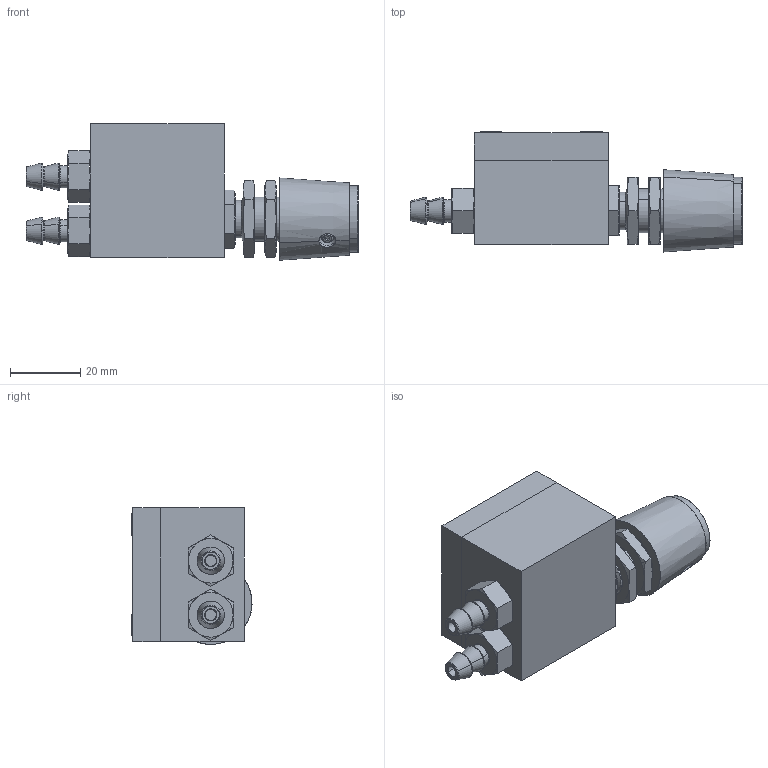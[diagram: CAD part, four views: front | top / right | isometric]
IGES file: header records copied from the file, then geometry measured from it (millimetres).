
Start section: SolidWorks IGES file using analytic representation for surfaces
Global section: file name: G:\Engineering\CAD MODELS FOR SALES\CAD MODEL STORAGE\FCA\8744\FCA8744-5-0-A-0.IGS; native system: SolidWorks 2020; preprocessor: SolidWorks 2020; author: CRaksin; date: 220819.141146; units: inch
Bounding box: 94.43 x 34.14 x 38.89 mm (x, y, z)
Surface area: 20417.9 mm2 (no closed solid volume)
Topology: 0 solids, 0 shells, 504 faces, 8443 edges, 8441 vertices
Faces by surface type: revolution 325, bspline 179
